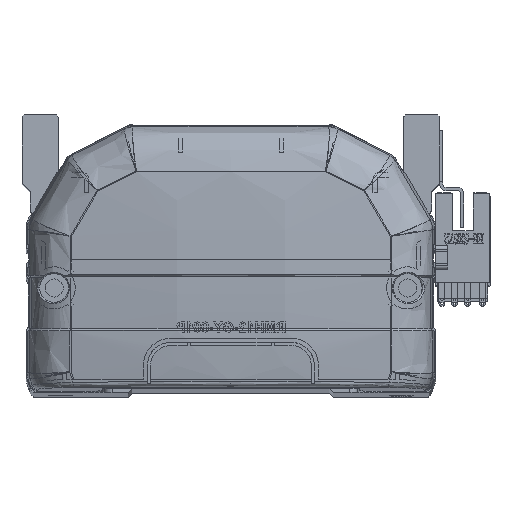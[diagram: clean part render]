
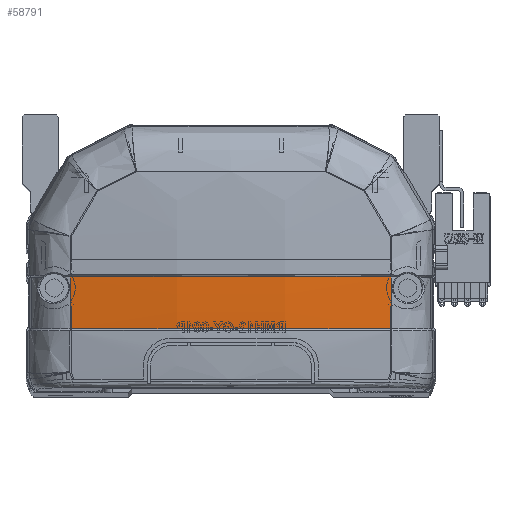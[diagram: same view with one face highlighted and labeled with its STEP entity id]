
A CAD part, top view. The second image highlights one B-rep face of the part: STEP entity #58791.
In plain terms, the highlighted free-form (B-spline) face has degree [3, 3] with [4, 4] control points.
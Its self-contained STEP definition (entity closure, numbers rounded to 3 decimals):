
#658 = B_SPLINE_CURVE_WITH_KNOTS ( 'NONE', 3,
 ( #45853, #49754, #13202, #21934, #54432, #26605, #8168, #14184, #37286, #23316 ),
 .UNSPECIFIED., .F., .F.,
 ( 4, 2, 2, 2, 4 ),
 ( 0., 0.04, 0.06, 0.07, 0.08 ),
 .UNSPECIFIED. ) ;
#874 = EDGE_CURVE ( 'NONE', #8727, #49456, #59570, .T. ) ;
#1915 = CARTESIAN_POINT ( 'NONE',  ( 40.461, 15.757, -5.8 ) ) ;
#2895 = CARTESIAN_POINT ( 'NONE',  ( 39.985, 15.83, -5.879 ) ) ;
#3511 = CARTESIAN_POINT ( 'NONE',  ( -13.598, 19.918, -10.302 ) ) ;
#3976 = ORIENTED_EDGE ( 'NONE', *, *, #874, .T. ) ;
#5614 = CARTESIAN_POINT ( 'NONE',  ( -39.985, 15.83, -5.879 ) ) ;
#6369 = B_SPLINE_CURVE_WITH_KNOTS ( 'NONE', 3,
 ( #2895, #58262, #30650, #35332 ),
 .UNSPECIFIED., .F., .F.,
 ( 4, 4 ),
 ( 0., 1. ),
 .UNSPECIFIED. ) ;
#6571 = CARTESIAN_POINT ( 'NONE',  ( 40.461, 24.47, -6.231 ) ) ;
#7578 = CARTESIAN_POINT ( 'NONE',  ( -40.461, 20.111, -6.066 ) ) ;
#8168 = CARTESIAN_POINT ( 'NONE',  ( -26.721, 15.83, -7.624 ) ) ;
#8727 = VERTEX_POINT ( 'NONE', #28964 ) ;
#9845 = VERTEX_POINT ( 'NONE', #41120 ) ;
#11243 = CARTESIAN_POINT ( 'NONE',  ( 13.598, 19.918, -10.302 ) ) ;
#12807 = CARTESIAN_POINT ( 'NONE',  ( -40.461, 28.832, -6.296 ) ) ;
#13202 = CARTESIAN_POINT ( 'NONE',  ( 13.38, 15.83, -8.984 ) ) ;
#13868 = ORIENTED_EDGE ( 'NONE', *, *, #51119, .F. ) ;
#13949 =( BOUNDED_SURFACE ( )  B_SPLINE_SURFACE ( 3, 3, ( 
 ( #1915, #34333, #6571, #20529 ),
 ( #39008, #11243, #43662, #57683 ),
 ( #25402, #3511, #44694, #26404 ),
 ( #58682, #7578, #22120, #12807 ) ),
 .UNSPECIFIED., .F., .F., .F. ) 
 B_SPLINE_SURFACE_WITH_KNOTS ( ( 4, 4 ),
 ( 4, 4 ),
 ( 0., 1. ),
 ( 0., 1. ),
 .UNSPECIFIED. ) 
 GEOMETRIC_REPRESENTATION_ITEM ( )  RATIONAL_B_SPLINE_SURFACE ( (
 ( 1., 1., 1., 1.),
 ( 0.992, 0.992, 0.992, 0.992),
 ( 0.992, 0.992, 0.992, 0.992),
 ( 1., 1., 1., 1.) ) ) 
 REPRESENTATION_ITEM ( '' )  SURFACE ( )  );
#14184 = CARTESIAN_POINT ( 'NONE',  ( -33.365, 15.83, -6.848 ) ) ;
#16322 = CARTESIAN_POINT ( 'NONE',  ( -13.373, 28.707, -9.468 ) ) ;
#19119 = EDGE_CURVE ( 'NONE', #8727, #9845, #37592, .T. ) ;
#20514 = ORIENTED_EDGE ( 'NONE', *, *, #37881, .T. ) ;
#20529 = CARTESIAN_POINT ( 'NONE',  ( 40.461, 28.832, -6.296 ) ) ;
#21934 = CARTESIAN_POINT ( 'NONE',  ( -6.692, 15.83, -8.984 ) ) ;
#22120 = CARTESIAN_POINT ( 'NONE',  ( -40.461, 24.47, -6.231 ) ) ;
#22872 = CARTESIAN_POINT ( 'NONE',  ( -39.963, 28.706, -6.372 ) ) ;
#23316 = CARTESIAN_POINT ( 'NONE',  ( -39.985, 15.83, -5.879 ) ) ;
#25402 = CARTESIAN_POINT ( 'NONE',  ( -13.598, 15.499, -10.032 ) ) ;
#26404 = CARTESIAN_POINT ( 'NONE',  ( -13.598, 28.769, -10.535 ) ) ;
#26605 = CARTESIAN_POINT ( 'NONE',  ( -23.389, 15.83, -7.947 ) ) ;
#28964 = CARTESIAN_POINT ( 'NONE',  ( -39.963, 28.706, -6.372 ) ) ;
#30101 = CARTESIAN_POINT ( 'NONE',  ( 13.375, 28.707, -9.468 ) ) ;
#30650 = CARTESIAN_POINT ( 'NONE',  ( 39.966, 24.413, -6.306 ) ) ;
#34333 = CARTESIAN_POINT ( 'NONE',  ( 40.461, 20.111, -6.066 ) ) ;
#35332 = CARTESIAN_POINT ( 'NONE',  ( 39.963, 28.706, -6.372 ) ) ;
#37012 = CARTESIAN_POINT ( 'NONE',  ( 39.985, 15.83, -5.879 ) ) ;
#37055 = CARTESIAN_POINT ( 'NONE',  ( -39.966, 24.412, -6.306 ) ) ;
#37286 = CARTESIAN_POINT ( 'NONE',  ( -36.679, 15.83, -6.395 ) ) ;
#37452 = CARTESIAN_POINT ( 'NONE',  ( -39.985, 15.83, -5.879 ) ) ;
#37592 = B_SPLINE_CURVE_WITH_KNOTS ( 'NONE', 3,
 ( #53448, #39844, #16322, #30101, #58111, #49391 ),
 .UNSPECIFIED., .F., .F.,
 ( 4, 2, 4 ),
 ( 0., 0.5, 1. ),
 .UNSPECIFIED. ) ;
#37726 = ORIENTED_EDGE ( 'NONE', *, *, #19119, .F. ) ;
#37881 = EDGE_CURVE ( 'NONE', #57939, #9845, #6369, .T. ) ;
#39008 = CARTESIAN_POINT ( 'NONE',  ( 13.598, 15.499, -10.032 ) ) ;
#39844 = CARTESIAN_POINT ( 'NONE',  ( -26.748, 28.706, -8.432 ) ) ;
#41120 = CARTESIAN_POINT ( 'NONE',  ( 39.963, 28.706, -6.372 ) ) ;
#43662 = CARTESIAN_POINT ( 'NONE',  ( 13.598, 24.342, -10.47 ) ) ;
#44694 = CARTESIAN_POINT ( 'NONE',  ( -13.598, 24.342, -10.47 ) ) ;
#45853 = CARTESIAN_POINT ( 'NONE',  ( 39.985, 15.83, -5.879 ) ) ;
#49115 = FACE_OUTER_BOUND ( 'NONE', #50634, .T. ) ;
#49391 = CARTESIAN_POINT ( 'NONE',  ( 39.963, 28.706, -6.372 ) ) ;
#49456 = VERTEX_POINT ( 'NONE', #5614 ) ;
#49754 = CARTESIAN_POINT ( 'NONE',  ( 26.761, 15.83, -7.945 ) ) ;
#50634 = EDGE_LOOP ( 'NONE', ( #20514, #37726, #3976, #13868 ) ) ;
#51119 = EDGE_CURVE ( 'NONE', #57939, #49456, #658, .T. ) ;
#53448 = CARTESIAN_POINT ( 'NONE',  ( -39.963, 28.706, -6.372 ) ) ;
#54432 = CARTESIAN_POINT ( 'NONE',  ( -13.384, 15.83, -8.724 ) ) ;
#55959 = CARTESIAN_POINT ( 'NONE',  ( -39.973, 20.118, -6.142 ) ) ;
#57683 = CARTESIAN_POINT ( 'NONE',  ( 13.598, 28.769, -10.535 ) ) ;
#57939 = VERTEX_POINT ( 'NONE', #37012 ) ;
#58111 = CARTESIAN_POINT ( 'NONE',  ( 26.749, 28.706, -8.432 ) ) ;
#58262 = CARTESIAN_POINT ( 'NONE',  ( 39.973, 20.12, -6.142 ) ) ;
#58682 = CARTESIAN_POINT ( 'NONE',  ( -40.461, 15.757, -5.8 ) ) ;
#58791 = ADVANCED_FACE ( 'NONE', ( #49115 ), #13949, .F. ) ;
#59570 = B_SPLINE_CURVE_WITH_KNOTS ( 'NONE', 3,
 ( #22872, #37055, #55959, #37452 ),
 .UNSPECIFIED., .F., .F.,
 ( 4, 4 ),
 ( 0., 1. ),
 .UNSPECIFIED. ) ;
